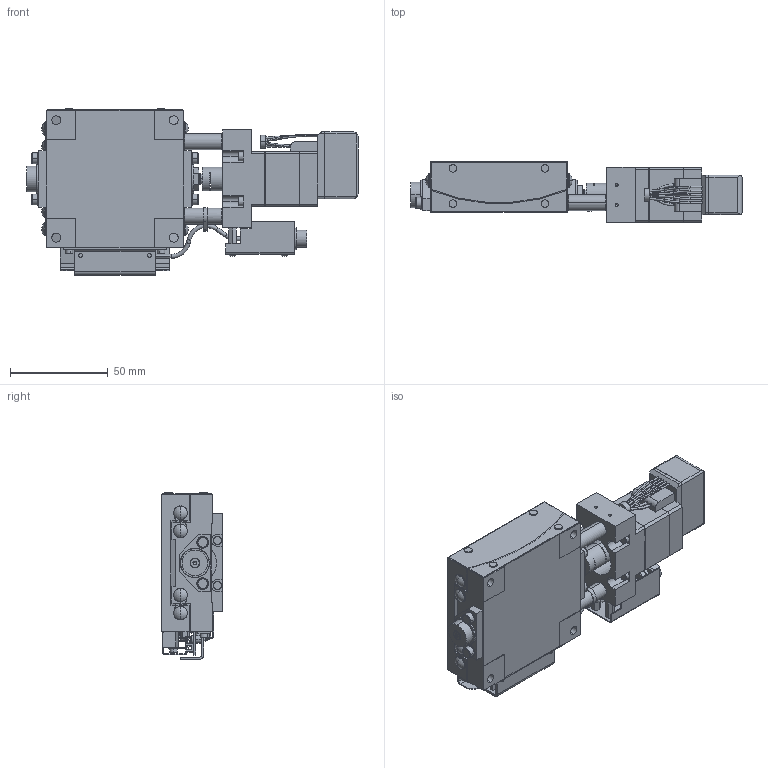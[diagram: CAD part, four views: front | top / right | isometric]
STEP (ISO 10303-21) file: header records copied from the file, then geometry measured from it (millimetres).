
FILE_DESCRIPTION (( 'STEP AP214' ), '1' );
FILE_NAME ('KGB07070AM-LZA.STEP', '2024-04-17T00:54:42', ( '' ), ( '' ), 'SwSTEP 2.0', 'SolidWorks 2017', '' );
FILE_SCHEMA (( 'AUTOMOTIVE_DESIGN' ));
Length unit declared in the file: millimetre
Products named in the file (5): KGB-70-M-6-L; KGB-TOP-07070-L; KGB-70-ZA; KGB07070AM-LZA; KGB-BASE-07070-L
Assembly tree (4 placements, depth 2):
  KGB07070AM-LZA
    KGB-BASE-07070-L
    KGB-TOP-07070-L
    KGB-70-ZA
    KGB-70-M-6-L
Bounding box: 169.4 x 31 x 85.1 mm (x, y, z)
Volume: 192807 mm3; surface area: 63254.1 mm2
Topology: 7 solids, 51 shells, 1480 faces, 3713 edges, 2384 vertices
Faces by surface type: plane 737, cylinder 517, cone 114, torus 80, sphere 20, bspline 12
Entity records: 45547 total; most frequent: CARTESIAN_POINT 8677, DIRECTION 7873, ORIENTED_EDGE 7302, EDGE_CURVE 3651, AXIS2_PLACEMENT_3D 2824, VERTEX_POINT 2384, LINE 2225, VECTOR 2225
